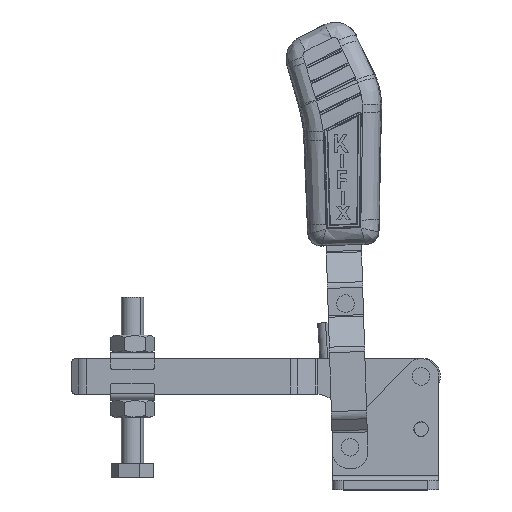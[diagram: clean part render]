
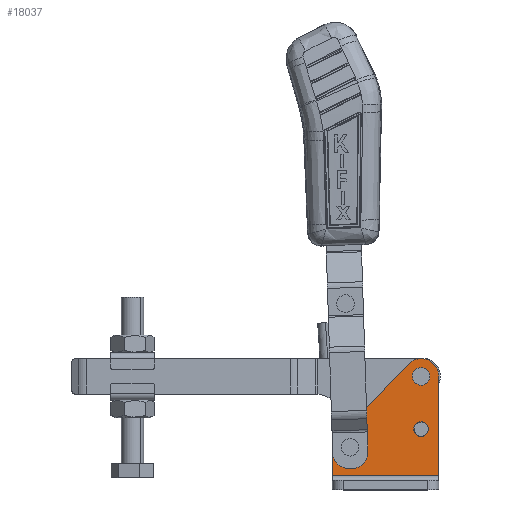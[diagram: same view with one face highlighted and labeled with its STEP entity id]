
A CAD part, top view. The second image highlights one B-rep face of the part: STEP entity #18037.
In plain terms, the highlighted planar face has unit normal (0, 0, 1).
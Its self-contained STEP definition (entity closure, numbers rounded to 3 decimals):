
#52 = ORIENTED_EDGE ( 'NONE', *, *, #11886, .F. ) ;
#147 = CARTESIAN_POINT ( 'NONE',  ( 34.254, 58.031, 18.415 ) ) ;
#234 = EDGE_CURVE ( 'NONE', #21255, #22798, #16040, .T. ) ;
#471 = DIRECTION ( 'NONE',  ( 0., -1., 0. ) ) ;
#1087 = VECTOR ( 'NONE', #23656, 1000. ) ;
#1165 = VERTEX_POINT ( 'NONE', #15659 ) ;
#1519 = CARTESIAN_POINT ( 'NONE',  ( 48., -13.535, 18.415 ) ) ;
#1786 = PLANE ( 'NONE',  #4454 ) ;
#2055 = CARTESIAN_POINT ( 'NONE',  ( 48., 52.465, 18.415 ) ) ;
#2617 = AXIS2_PLACEMENT_3D ( 'NONE', #23141, #10743, #25209 ) ;
#2710 = AXIS2_PLACEMENT_3D ( 'NONE', #5730, #20189, #7795 ) ;
#2883 = VERTEX_POINT ( 'NONE', #17922 ) ;
#3445 = ORIENTED_EDGE ( 'NONE', *, *, #6955, .F. ) ;
#3598 = EDGE_LOOP ( 'NONE', ( #52, #11586 ) ) ;
#3615 = FACE_OUTER_BOUND ( 'NONE', #7022, .T. ) ;
#3813 = VERTEX_POINT ( 'NONE', #147 ) ;
#3869 = ORIENTED_EDGE ( 'NONE', *, *, #22671, .F. ) ;
#4396 = ORIENTED_EDGE ( 'NONE', *, *, #15628, .F. ) ;
#4454 = AXIS2_PLACEMENT_3D ( 'NONE', #16221, #5923, #20384 ) ;
#4951 = LINE ( 'NONE', #1519, #25669 ) ;
#5071 = CARTESIAN_POINT ( 'NONE',  ( 48., 7.54, 18.415 ) ) ;
#5378 = DIRECTION ( 'NONE',  ( 0., 0., 1. ) ) ;
#5730 = CARTESIAN_POINT ( 'NONE',  ( 40., 52.465, 18.415 ) ) ;
#5741 = ORIENTED_EDGE ( 'NONE', *, *, #16836, .T. ) ;
#5923 = DIRECTION ( 'NONE',  ( 0., 0., 1. ) ) ;
#6096 = VECTOR ( 'NONE', #471, 1000. ) ;
#6454 = VECTOR ( 'NONE', #11857, 1000. ) ;
#6593 = DIRECTION ( 'NONE',  ( 0., 0., 1. ) ) ;
#6776 = AXIS2_PLACEMENT_3D ( 'NONE', #6934, #21395, #9015 ) ;
#6843 = EDGE_CURVE ( 'NONE', #18498, #26346, #14514, .T. ) ;
#6934 = CARTESIAN_POINT ( 'NONE',  ( 40., 52.465, 18.415 ) ) ;
#6955 = EDGE_CURVE ( 'NONE', #7848, #25102, #17425, .T. ) ;
#7022 = EDGE_LOOP ( 'NONE', ( #25479, #26630, #19820, #5741, #17362 ) ) ;
#7795 = DIRECTION ( 'NONE',  ( 0., -1., 0. ) ) ;
#7848 = VERTEX_POINT ( 'NONE', #8448 ) ;
#8321 = CIRCLE ( 'NONE', #9145, 3.2 ) ;
#8448 = CARTESIAN_POINT ( 'NONE',  ( 40., 49.265, 18.415 ) ) ;
#8693 = CARTESIAN_POINT ( 'NONE',  ( 0., -13.535, 18.415 ) ) ;
#8975 = DIRECTION ( 'NONE',  ( 0., 0., 1. ) ) ;
#9015 = DIRECTION ( 'NONE',  ( 0., -1., 0. ) ) ;
#9145 = AXIS2_PLACEMENT_3D ( 'NONE', #18996, #6593, #21052 ) ;
#10432 = AXIS2_PLACEMENT_3D ( 'NONE', #17761, #5378, #19849 ) ;
#10496 = EDGE_CURVE ( 'NONE', #16559, #3813, #16779, .T. ) ;
#10516 = CARTESIAN_POINT ( 'NONE',  ( 40., 31.965, 18.415 ) ) ;
#10743 = DIRECTION ( 'NONE',  ( 0., 0., 1. ) ) ;
#10827 = EDGE_CURVE ( 'NONE', #1165, #2883, #11599, .T. ) ;
#11586 = ORIENTED_EDGE ( 'NONE', *, *, #6843, .F. ) ;
#11599 = LINE ( 'NONE', #8693, #6096 ) ;
#11857 = DIRECTION ( 'NONE',  ( -1., 0., 0. ) ) ;
#11886 = EDGE_CURVE ( 'NONE', #26346, #18498, #8321, .T. ) ;
#12060 = LINE ( 'NONE', #21562, #1087 ) ;
#12366 = ORIENTED_EDGE ( 'NONE', *, *, #234, .F. ) ;
#12413 = CARTESIAN_POINT ( 'NONE',  ( 8., 17.265, 18.415 ) ) ;
#13973 = FACE_BOUND ( 'NONE', #16558, .T. ) ;
#14001 = DIRECTION ( 'NONE',  ( 0., 1., 0. ) ) ;
#14514 = CIRCLE ( 'NONE', #2617, 3.2 ) ;
#14605 = FACE_BOUND ( 'NONE', #21320, .T. ) ;
#14908 = VERTEX_POINT ( 'NONE', #5071 ) ;
#15628 = EDGE_CURVE ( 'NONE', #25102, #7848, #21171, .T. ) ;
#15659 = CARTESIAN_POINT ( 'NONE',  ( 0., 22.665, 18.415 ) ) ;
#15838 = CARTESIAN_POINT ( 'NONE',  ( 8., 23.665, 18.415 ) ) ;
#16040 = CIRCLE ( 'NONE', #25841, 3.3 ) ;
#16221 = CARTESIAN_POINT ( 'NONE',  ( 40., 52.465, 18.415 ) ) ;
#16310 = AXIS2_PLACEMENT_3D ( 'NONE', #21352, #8975, #23451 ) ;
#16558 = EDGE_LOOP ( 'NONE', ( #3869, #12366 ) ) ;
#16559 = VERTEX_POINT ( 'NONE', #2055 ) ;
#16779 = CIRCLE ( 'NONE', #2710, 8. ) ;
#16836 = EDGE_CURVE ( 'NONE', #3813, #1165, #12060, .T. ) ;
#16871 = CARTESIAN_POINT ( 'NONE',  ( 40., 28.665, 18.415 ) ) ;
#17362 = ORIENTED_EDGE ( 'NONE', *, *, #10827, .T. ) ;
#17425 = CIRCLE ( 'NONE', #6776, 3.2 ) ;
#17761 = CARTESIAN_POINT ( 'NONE',  ( 40., 28.665, 18.415 ) ) ;
#17922 = CARTESIAN_POINT ( 'NONE',  ( 0., 7.54, 18.415 ) ) ;
#18037 = ADVANCED_FACE ( 'NONE', ( #3615, #14605, #19462, #13973 ), #1786, .T. ) ;
#18498 = VERTEX_POINT ( 'NONE', #15838 ) ;
#18996 = CARTESIAN_POINT ( 'NONE',  ( 8., 20.465, 18.415 ) ) ;
#19462 = FACE_BOUND ( 'NONE', #3598, .T. ) ;
#19820 = ORIENTED_EDGE ( 'NONE', *, *, #10496, .T. ) ;
#19849 = DIRECTION ( 'NONE',  ( 0., -1., 0. ) ) ;
#20189 = DIRECTION ( 'NONE',  ( 0., 0., 1. ) ) ;
#20276 = CARTESIAN_POINT ( 'NONE',  ( 40., 25.365, 18.415 ) ) ;
#20384 = DIRECTION ( 'NONE',  ( 0., -1., 0. ) ) ;
#21052 = DIRECTION ( 'NONE',  ( 0., -1., 0. ) ) ;
#21171 = CIRCLE ( 'NONE', #16310, 3.2 ) ;
#21255 = VERTEX_POINT ( 'NONE', #10516 ) ;
#21320 = EDGE_LOOP ( 'NONE', ( #3445, #4396 ) ) ;
#21352 = CARTESIAN_POINT ( 'NONE',  ( 40., 52.465, 18.415 ) ) ;
#21395 = DIRECTION ( 'NONE',  ( 0., 0., 1. ) ) ;
#21562 = CARTESIAN_POINT ( 'NONE',  ( 0., 22.665, 18.415 ) ) ;
#22074 = CIRCLE ( 'NONE', #10432, 3.3 ) ;
#22141 = EDGE_CURVE ( 'NONE', #14908, #16559, #4951, .T. ) ;
#22172 = CARTESIAN_POINT ( 'NONE',  ( 40., 7.54, 18.415 ) ) ;
#22671 = EDGE_CURVE ( 'NONE', #22798, #21255, #22074, .T. ) ;
#22798 = VERTEX_POINT ( 'NONE', #20276 ) ;
#22959 = LINE ( 'NONE', #22172, #6454 ) ;
#23141 = CARTESIAN_POINT ( 'NONE',  ( 8., 20.465, 18.415 ) ) ;
#23451 = DIRECTION ( 'NONE',  ( 0., -1., 0. ) ) ;
#23656 = DIRECTION ( 'NONE',  ( -0.696, -0.718, 0. ) ) ;
#25073 = EDGE_CURVE ( 'NONE', #14908, #2883, #22959, .T. ) ;
#25102 = VERTEX_POINT ( 'NONE', #26425 ) ;
#25209 = DIRECTION ( 'NONE',  ( 0., -1., 0. ) ) ;
#25270 = DIRECTION ( 'NONE',  ( 0., -1., 0. ) ) ;
#25479 = ORIENTED_EDGE ( 'NONE', *, *, #25073, .F. ) ;
#25669 = VECTOR ( 'NONE', #14001, 1000. ) ;
#25841 = AXIS2_PLACEMENT_3D ( 'NONE', #16871, #26360, #25270 ) ;
#26346 = VERTEX_POINT ( 'NONE', #12413 ) ;
#26360 = DIRECTION ( 'NONE',  ( 0., 0., 1. ) ) ;
#26425 = CARTESIAN_POINT ( 'NONE',  ( 40., 55.665, 18.415 ) ) ;
#26630 = ORIENTED_EDGE ( 'NONE', *, *, #22141, .T. ) ;
